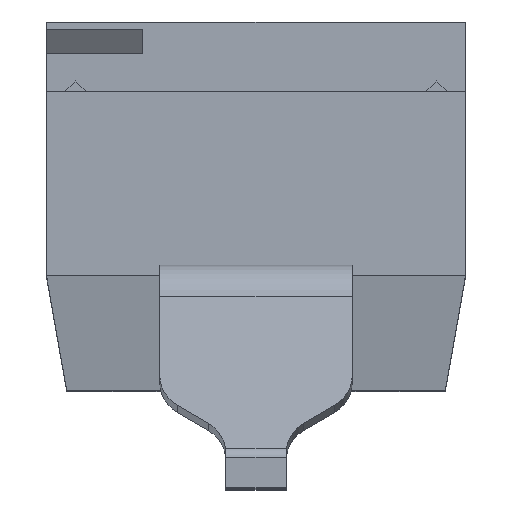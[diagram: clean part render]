
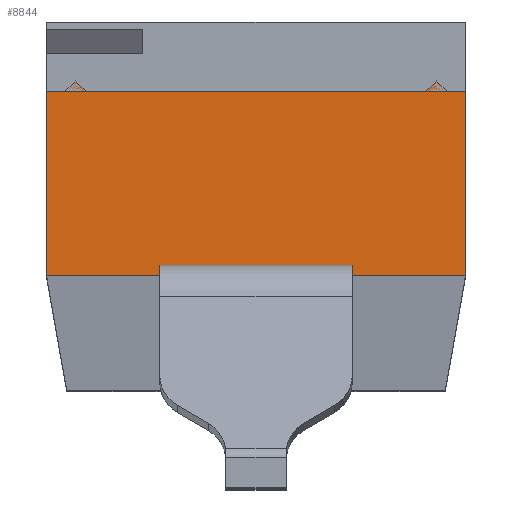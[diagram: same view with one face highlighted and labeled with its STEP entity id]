
A CAD part, top view. The second image highlights one B-rep face of the part: STEP entity #8844.
In plain terms, the highlighted planar face has unit normal (0, 0, 1).
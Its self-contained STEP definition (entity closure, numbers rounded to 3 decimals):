
#22 = CARTESIAN_POINT ( 'NONE',  ( -1.74, 2.48, 3.1 ) ) ;
#2738 = CARTESIAN_POINT ( 'NONE',  ( 0.8, 0.95, 3.1 ) ) ;
#2773 = DIRECTION ( 'NONE',  ( 1., 0., 0. ) ) ;
#2774 = VECTOR ( 'NONE', #2773, 1000. ) ;
#2775 = CARTESIAN_POINT ( 'NONE',  ( 0., 0.95, 3.1 ) ) ;
#2776 = LINE ( 'NONE', #2775, #2774 ) ;
#2821 = DIRECTION ( 'NONE',  ( 1., 0., 0. ) ) ;
#2822 = VECTOR ( 'NONE', #2821, 1000. ) ;
#2823 = CARTESIAN_POINT ( 'NONE',  ( 0., 0.95, 3.1 ) ) ;
#2824 = LINE ( 'NONE', #2823, #2822 ) ;
#2825 = CARTESIAN_POINT ( 'NONE',  ( -0.8, 0.95, 3.1 ) ) ;
#2845 = DIRECTION ( 'NONE',  ( 0., -1., 0. ) ) ;
#2846 = VECTOR ( 'NONE', #2845, 1000. ) ;
#2847 = CARTESIAN_POINT ( 'NONE',  ( -1.74, 1.715, 3.1 ) ) ;
#2848 = LINE ( 'NONE', #2847, #2846 ) ;
#2872 = CARTESIAN_POINT ( 'NONE',  ( -1.74, 0.95, 3.1 ) ) ;
#2885 = DIRECTION ( 'NONE',  ( 1., 0., 0. ) ) ;
#2886 = VECTOR ( 'NONE', #2885, 1000. ) ;
#2887 = CARTESIAN_POINT ( 'NONE',  ( 0., 1.04, 3.1 ) ) ;
#2888 = LINE ( 'NONE', #2887, #2886 ) ;
#2988 = CARTESIAN_POINT ( 'NONE',  ( -1.59, 2.48, 3.1 ) ) ;
#2989 = DIRECTION ( 'NONE',  ( -1., 0., 0. ) ) ;
#2990 = VECTOR ( 'NONE', #2989, 1000. ) ;
#2991 = CARTESIAN_POINT ( 'NONE',  ( -1.665, 2.48, 3.1 ) ) ;
#2995 = LINE ( 'NONE', #2991, #2990 ) ;
#3004 = LINE ( 'NONE', #3066, #3065 ) ;
#3028 = CARTESIAN_POINT ( 'NONE',  ( 1.59, 2.48, 3.1 ) ) ;
#3029 = DIRECTION ( 'NONE',  ( -1., 0., 0. ) ) ;
#3030 = VECTOR ( 'NONE', #3029, 1000. ) ;
#3031 = CARTESIAN_POINT ( 'NONE',  ( 1.665, 2.48, 3.1 ) ) ;
#3032 = LINE ( 'NONE', #3031, #3030 ) ;
#3063 = CARTESIAN_POINT ( 'NONE',  ( -1.5, 2.57, 3.1 ) ) ;
#3064 = DIRECTION ( 'NONE',  ( -0.707, -0.707, 0. ) ) ;
#3065 = VECTOR ( 'NONE', #3064, 1000. ) ;
#3066 = CARTESIAN_POINT ( 'NONE',  ( -1.545, 2.525, 3.1 ) ) ;
#3067 = CARTESIAN_POINT ( 'NONE',  ( 1.41, 2.48, 3.1 ) ) ;
#3087 = DIRECTION ( 'NONE',  ( 0.707, -0.707, 0. ) ) ;
#3088 = VECTOR ( 'NONE', #3087, 1000. ) ;
#3089 = CARTESIAN_POINT ( 'NONE',  ( 1.545, 2.525, 3.1 ) ) ;
#3090 = LINE ( 'NONE', #3089, #3088 ) ;
#3091 = CARTESIAN_POINT ( 'NONE',  ( 1.5, 2.57, 3.1 ) ) ;
#3124 = DIRECTION ( 'NONE',  ( 0.707, 0.707, 0. ) ) ;
#3125 = VECTOR ( 'NONE', #3124, 1000. ) ;
#3126 = CARTESIAN_POINT ( 'NONE',  ( 1.455, 2.525, 3.1 ) ) ;
#3127 = LINE ( 'NONE', #3126, #3125 ) ;
#3160 = CARTESIAN_POINT ( 'NONE',  ( -1.41, 2.48, 3.1 ) ) ;
#3161 = DIRECTION ( 'NONE',  ( -0.707, 0.707, 0. ) ) ;
#3162 = VECTOR ( 'NONE', #3161, 1000. ) ;
#3163 = CARTESIAN_POINT ( 'NONE',  ( -1.455, 2.525, 3.1 ) ) ;
#3169 = LINE ( 'NONE', #3163, #3162 ) ;
#3372 = DIRECTION ( 'NONE',  ( 1., 0., 0. ) ) ;
#3373 = VECTOR ( 'NONE', #3372, 1000. ) ;
#3374 = CARTESIAN_POINT ( 'NONE',  ( 0., 2.48, 3.1 ) ) ;
#3375 = LINE ( 'NONE', #3374, #3373 ) ;
#3376 = DIRECTION ( 'NONE',  ( -1., 0., 0. ) ) ;
#3377 = DIRECTION ( 'NONE',  ( 0., 0., -1. ) ) ;
#3378 = AXIS2_PLACEMENT_3D ( 'NONE', #3379, #3377, #3376 ) ;
#3379 = CARTESIAN_POINT ( 'NONE',  ( 1.74, 0.95, 3.1 ) ) ;
#3380 = PLANE ( 'NONE',  #3378 ) ;
#3381 = FACE_OUTER_BOUND ( 'NONE', #8845, .T. ) ;
#4435 = VERTEX_POINT ( 'NONE', #9096 ) ;
#4767 = EDGE_CURVE ( 'NONE', #7443, #4769, #9625, .T. ) ;
#4769 = VERTEX_POINT ( 'NONE', #9617 ) ;
#4802 = VERTEX_POINT ( 'NONE', #9690 ) ;
#4840 = EDGE_CURVE ( 'NONE', #4802, #7483, #9750, .T. ) ;
#6109 = VERTEX_POINT ( 'NONE', #8480 ) ;
#6111 = EDGE_CURVE ( 'NONE', #4435, #6109, #8479, .T. ) ;
#6119 = VERTEX_POINT ( 'NONE', #22 ) ;
#7443 = VERTEX_POINT ( 'NONE', #2738 ) ;
#7453 = EDGE_CURVE ( 'NONE', #7443, #4435, #2776, .T. ) ;
#7483 = VERTEX_POINT ( 'NONE', #2825 ) ;
#7487 = EDGE_CURVE ( 'NONE', #7489, #7483, #2824, .T. ) ;
#7489 = VERTEX_POINT ( 'NONE', #2872 ) ;
#8476 = DIRECTION ( 'NONE',  ( 0., 1., 0. ) ) ;
#8477 = VECTOR ( 'NONE', #8476, 1000. ) ;
#8478 = CARTESIAN_POINT ( 'NONE',  ( 1.74, 1.715, 3.1 ) ) ;
#8479 = LINE ( 'NONE', #8478, #8477 ) ;
#8480 = CARTESIAN_POINT ( 'NONE',  ( 1.74, 2.48, 3.1 ) ) ;
#8536 = EDGE_CURVE ( 'NONE', #6119, #7489, #2848, .T. ) ;
#8549 = EDGE_CURVE ( 'NONE', #4802, #4769, #2888, .T. ) ;
#8605 = EDGE_CURVE ( 'NONE', #8606, #6119, #2995, .T. ) ;
#8606 = VERTEX_POINT ( 'NONE', #2988 ) ;
#8619 = EDGE_CURVE ( 'NONE', #6109, #8620, #3032, .T. ) ;
#8620 = VERTEX_POINT ( 'NONE', #3028 ) ;
#8639 = EDGE_CURVE ( 'NONE', #8640, #8606, #3004, .T. ) ;
#8640 = VERTEX_POINT ( 'NONE', #3063 ) ;
#8660 = VERTEX_POINT ( 'NONE', #3091 ) ;
#8662 = EDGE_CURVE ( 'NONE', #8660, #8620, #3090, .T. ) ;
#8679 = VERTEX_POINT ( 'NONE', #3067 ) ;
#8681 = EDGE_CURVE ( 'NONE', #8679, #8660, #3127, .T. ) ;
#8739 = EDGE_CURVE ( 'NONE', #8740, #8640, #3169, .T. ) ;
#8740 = VERTEX_POINT ( 'NONE', #3160 ) ;
#8837 = ORIENTED_EDGE ( 'NONE', *, *, #7487, .T. ) ;
#8838 = ORIENTED_EDGE ( 'NONE', *, *, #4840, .F. ) ;
#8839 = ORIENTED_EDGE ( 'NONE', *, *, #8549, .T. ) ;
#8840 = ORIENTED_EDGE ( 'NONE', *, *, #4767, .F. ) ;
#8844 = ADVANCED_FACE ( 'NONE', ( #3381 ), #3380, .F. ) ;
#8845 = EDGE_LOOP ( 'NONE', ( #8846, #8847, #8848, #8849, #8850, #8851, #8852, #8916, #8917, #8918, #8837, #8838, #8839, #8840 ) ) ;
#8846 = ORIENTED_EDGE ( 'NONE', *, *, #7453, .T. ) ;
#8847 = ORIENTED_EDGE ( 'NONE', *, *, #6111, .T. ) ;
#8848 = ORIENTED_EDGE ( 'NONE', *, *, #8619, .T. ) ;
#8849 = ORIENTED_EDGE ( 'NONE', *, *, #8662, .F. ) ;
#8850 = ORIENTED_EDGE ( 'NONE', *, *, #8681, .F. ) ;
#8851 = ORIENTED_EDGE ( 'NONE', *, *, #8862, .F. ) ;
#8852 = ORIENTED_EDGE ( 'NONE', *, *, #8739, .T. ) ;
#8862 = EDGE_CURVE ( 'NONE', #8740, #8679, #3375, .T. ) ;
#8916 = ORIENTED_EDGE ( 'NONE', *, *, #8639, .T. ) ;
#8917 = ORIENTED_EDGE ( 'NONE', *, *, #8605, .T. ) ;
#8918 = ORIENTED_EDGE ( 'NONE', *, *, #8536, .T. ) ;
#9096 = CARTESIAN_POINT ( 'NONE',  ( 1.74, 0.95, 3.1 ) ) ;
#9617 = CARTESIAN_POINT ( 'NONE',  ( 0.8, 1.04, 3.1 ) ) ;
#9622 = DIRECTION ( 'NONE',  ( 0., 1., 0. ) ) ;
#9623 = VECTOR ( 'NONE', #9622, 1000. ) ;
#9624 = CARTESIAN_POINT ( 'NONE',  ( 0.8, 0.915, 3.1 ) ) ;
#9625 = LINE ( 'NONE', #9624, #9623 ) ;
#9690 = CARTESIAN_POINT ( 'NONE',  ( -0.8, 1.04, 3.1 ) ) ;
#9744 = DIRECTION ( 'NONE',  ( 0., -1., 0. ) ) ;
#9745 = VECTOR ( 'NONE', #9744, 1000. ) ;
#9746 = CARTESIAN_POINT ( 'NONE',  ( -0.8, 0.915, 3.1 ) ) ;
#9750 = LINE ( 'NONE', #9746, #9745 ) ;
